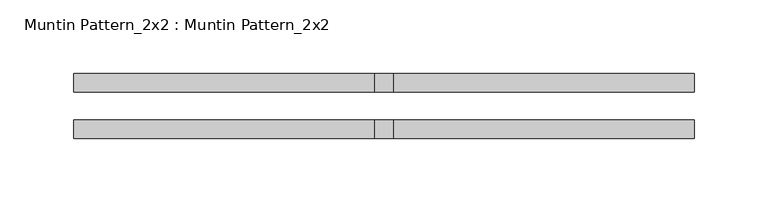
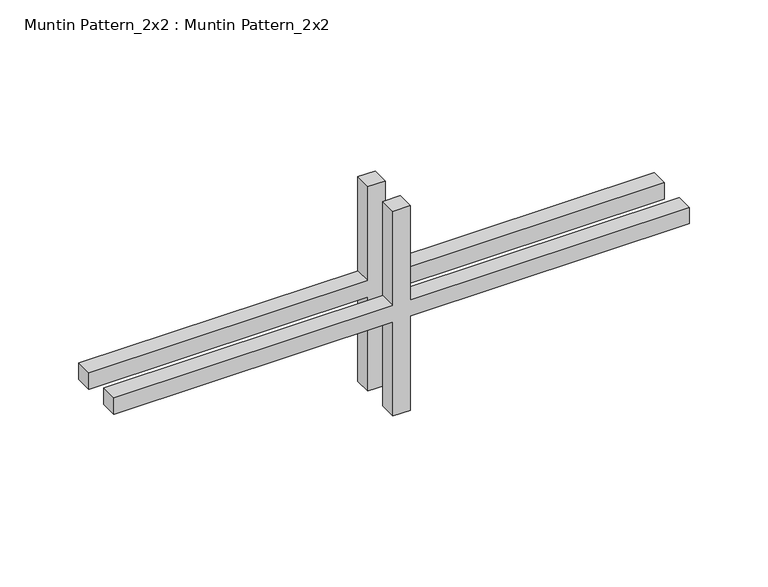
"""IFC4 building model written with IfcOpenShell, lengths in millimetres: proxy geometry, Muntin Pattern_2x2 : Muntin Pattern_2x2."""

from ifc_helpers import new_model, si_unit, frame, origin, place, context, project, spatial, polyline, outline, extrude, source, transform, mapped, element, save


def muntin_pattern_2x2_muntin_pattern_2x2_192cb364(model_context):
    return source(origin(), model_context, "Body", "SweptSolid", [
        extrude(outline(polyline([(85.725, -6.35), (85.725, -211.1375), (73.025, -211.1375), (73.025, -6.35), (0.0, -6.35), (0.0, 6.35), (73.025, 6.35), (73.025, 211.1375), (85.725, 211.1375), (85.725, 6.35), (158.75, 6.35), (158.75, -6.35), (85.725, -6.35)])), frame((0.0, 9.525, 0.0), z_axis=(0.0, 1.0, 0.0), x_axis=(0.0, 0.0, 1.0)), (0.0, 0.0, 1.0), 12.7),
        extrude(outline(polyline([(85.725, -6.35), (85.725, -211.1375), (73.025, -211.1375), (73.025, -6.35), (0.0, -6.35), (0.0, 6.35), (73.025, 6.35), (73.025, 211.1375), (85.725, 211.1375), (85.725, 6.35), (158.75, 6.35), (158.75, -6.35), (85.725, -6.35)])), frame((0.0, -22.225, 0.0), z_axis=(0.0, 1.0, 0.0), x_axis=(0.0, 0.0, 1.0)), (0.0, 0.0, 1.0), 12.7),
    ])


if __name__ == "__main__":
    model = new_model("IFC4")
    model_context = context("Model", 3, world=origin())
    ifc_project = project(units=[si_unit("LENGTHUNIT", "METRE", prefix="MILLI")], contexts=[model_context])
    site = spatial("IfcSite", under=ifc_project)
    building = spatial("IfcBuilding", under=site)
    placement = place(None, origin())
    muntin_pattern_2x2_muntin_pattern_2x2_shape = muntin_pattern_2x2_muntin_pattern_2x2_192cb364(model_context)
    element("IfcBuildingElementProxy", 1, Name="Muntin Pattern_2x2 : Muntin Pattern_2x2", ObjectType="Muntin Pattern_2x2 : Muntin Pattern_2x2", at=placement, inside=building, context=model_context, shape_type="MappedRepresentation", body=[
        mapped(muntin_pattern_2x2_muntin_pattern_2x2_shape, transform((0.0, 0.0, 0.0), x_axis=(1.0, 0.0, 0.0), y_axis=(0.0, 1.0, 0.0), z_axis=(0.0, 0.0, 1.0))),
    ])
    save(model, "model.ifc")
